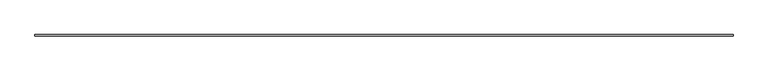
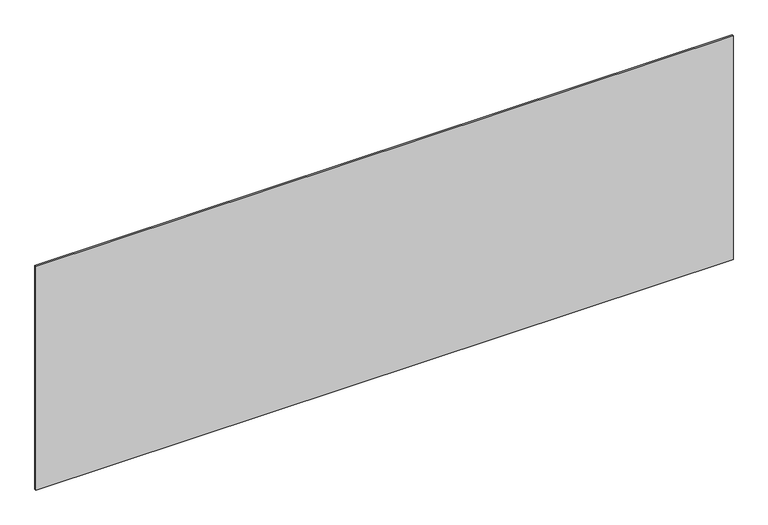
"""IFC4 building model written with IfcOpenShell, lengths in millimetres: plate geometry, システム パネル : 標準."""

from ifc_helpers import new_model, si_unit, frame, origin, place, context, project, spatial, polyline, outline, extrude, source, transform, mapped, element, save


def plate_3a21bd67(model_context):
    return source(origin(), model_context, "Body", "SweptSolid", [
        extrude(outline(polyline([(0.0, -2281.6666667), (0.0, 2281.6666667), (1548.9812503, 2281.6666667), (1548.9812503, -2281.6666667), (1536.0563962, -2281.6666667), (0.0, -2281.6666667)])), frame((0.0, -5.0, 0.0), z_axis=(0.0, 1.0, 0.0), x_axis=(0.0, 0.0, 1.0)), (0.0, 0.0, 1.0), 10.0),
    ])


if __name__ == "__main__":
    model = new_model("IFC4")
    model_context = context("Model", 3, world=origin())
    ifc_project = project(units=[si_unit("LENGTHUNIT", "METRE", prefix="MILLI")], contexts=[model_context])
    site = spatial("IfcSite", under=ifc_project)
    building = spatial("IfcBuilding", under=site)
    placement = place(None, origin())
    plate_shape = plate_3a21bd67(model_context)
    element("IfcPlate", 1, ObjectType="システム パネル : 標準", at=placement, inside=building, context=model_context, shape_type="MappedRepresentation", body=[
        mapped(plate_shape, transform((0.0, 0.0, 0.0), x_axis=(1.0, 0.0, 0.0), y_axis=(0.0, 1.0, 0.0), z_axis=(0.0, 0.0, 1.0))),
    ])
    save(model, "model.ifc")
